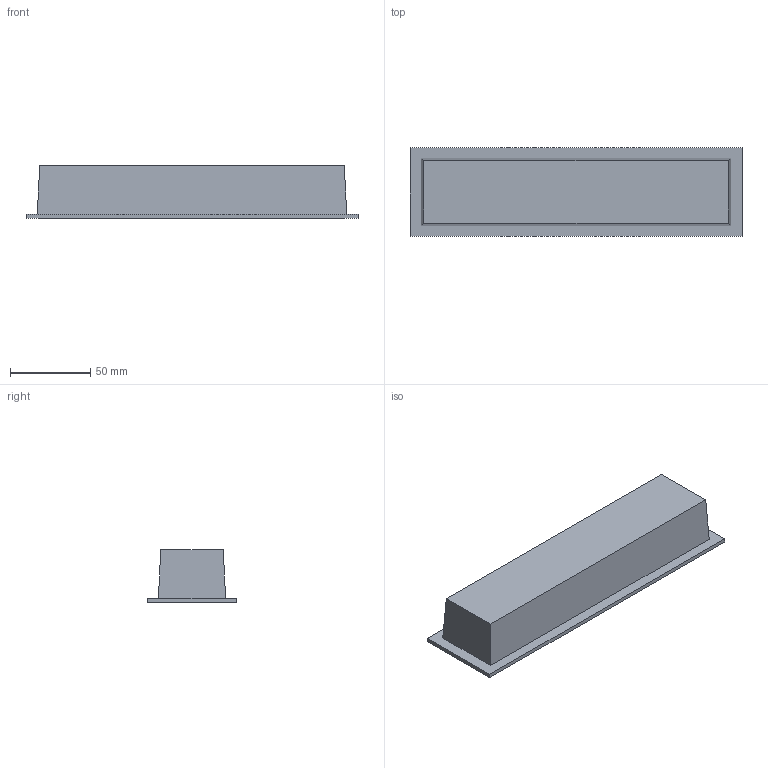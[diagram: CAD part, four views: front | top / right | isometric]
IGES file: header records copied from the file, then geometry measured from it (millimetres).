
Start section: SolidWorks IGES file using analytic representation for surfaces
Global section: file name: X:\PRODUKT\Modele 3D_WWW\_KOLEKCJE WWW\MINI\MIDI-LED-10062-10065\MIDI-LED-10062-10065.IGS; native system: SolidWorks 2021; preprocessor: SolidWorks 2021; author: gabriela.tworek; date: 220603.111851; units: millimetre
Bounding box: 207 x 55 x 32.5 mm (x, y, z)
Surface area: 90806.2 mm2 (no closed solid volume)
Topology: 0 solids, 0 shells, 137 faces, 451 edges, 421 vertices
Faces by surface type: bspline 107, revolution 30
